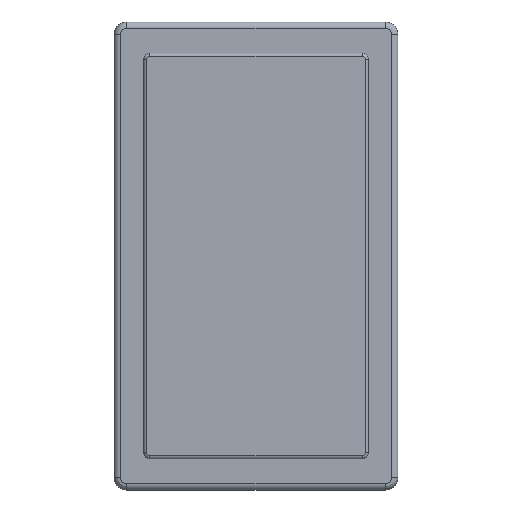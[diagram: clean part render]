
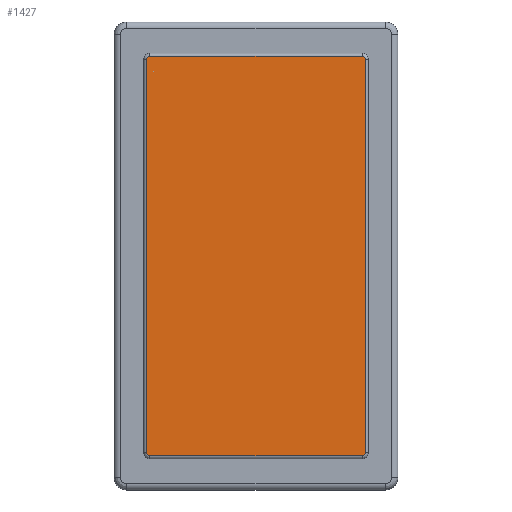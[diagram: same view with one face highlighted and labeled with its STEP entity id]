
A CAD part, front view. The second image highlights one B-rep face of the part: STEP entity #1427.
In plain terms, the highlighted planar face has unit normal (0, -1, 0).
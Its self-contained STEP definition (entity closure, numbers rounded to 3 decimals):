
#50=CIRCLE('',#1489,0.5);
#56=CIRCLE('',#1496,0.5);
#60=CIRCLE('',#1501,0.5);
#64=CIRCLE('',#1506,0.5);
#146=LINE('',#3041,#254);
#148=LINE('',#3061,#256);
#150=LINE('',#3081,#258);
#151=LINE('',#3097,#259);
#254=VECTOR('',#1673,34.);
#256=VECTOR('',#1685,63.);
#258=VECTOR('',#1697,34.);
#259=VECTOR('',#1706,63.);
#343=PLANE('',#1514);
#415=FACE_OUTER_BOUND('',#505,.T.);
#505=EDGE_LOOP('',(#1151,#1152,#1153,#1154,#1155,#1156,#1157,#1158));
#666=VERTEX_POINT('',#3029);
#667=VERTEX_POINT('',#3031);
#669=VERTEX_POINT('',#3037);
#671=VERTEX_POINT('',#3051);
#673=VERTEX_POINT('',#3057);
#675=VERTEX_POINT('',#3071);
#677=VERTEX_POINT('',#3077);
#679=VERTEX_POINT('',#3091);
#828=EDGE_CURVE('',#666,#667,#50,.T.);
#833=EDGE_CURVE('',#667,#669,#146,.T.);
#836=EDGE_CURVE('',#669,#671,#56,.T.);
#839=EDGE_CURVE('',#671,#673,#148,.T.);
#842=EDGE_CURVE('',#673,#675,#60,.T.);
#845=EDGE_CURVE('',#675,#677,#150,.T.);
#848=EDGE_CURVE('',#677,#679,#64,.T.);
#849=EDGE_CURVE('',#679,#666,#151,.T.);
#1151=ORIENTED_EDGE('',*,*,#828,.F.);
#1152=ORIENTED_EDGE('',*,*,#849,.F.);
#1153=ORIENTED_EDGE('',*,*,#848,.F.);
#1154=ORIENTED_EDGE('',*,*,#845,.F.);
#1155=ORIENTED_EDGE('',*,*,#842,.F.);
#1156=ORIENTED_EDGE('',*,*,#839,.F.);
#1157=ORIENTED_EDGE('',*,*,#836,.F.);
#1158=ORIENTED_EDGE('',*,*,#833,.F.);
#1427=ADVANCED_FACE('',(#415),#343,.T.);
#1489=AXIS2_PLACEMENT_3D('',#3032,#1662,#1663);
#1496=AXIS2_PLACEMENT_3D('',#3055,#1678,#1679);
#1501=AXIS2_PLACEMENT_3D('',#3075,#1690,#1691);
#1506=AXIS2_PLACEMENT_3D('',#3095,#1702,#1703);
#1514=AXIS2_PLACEMENT_3D('',#3117,#1727,#1728);
#1662=DIRECTION('center_axis',(0.,1.,0.));
#1663=DIRECTION('ref_axis',(-0.707,0.,0.707));
#1673=DIRECTION('',(1.,0.,0.));
#1678=DIRECTION('center_axis',(0.,1.,0.));
#1679=DIRECTION('ref_axis',(0.707,0.,0.707));
#1685=DIRECTION('',(0.,0.,-1.));
#1690=DIRECTION('center_axis',(0.,1.,0.));
#1691=DIRECTION('ref_axis',(0.707,0.,-0.707));
#1697=DIRECTION('',(-1.,0.,0.));
#1702=DIRECTION('center_axis',(0.,1.,0.));
#1703=DIRECTION('ref_axis',(-0.707,0.,-0.707));
#1706=DIRECTION('',(0.,0.,1.));
#1727=DIRECTION('center_axis',(0.,-1.,0.));
#1728=DIRECTION('ref_axis',(0.,0.,-1.));
#3029=CARTESIAN_POINT('',(-17.5,-5.,31.5));
#3031=CARTESIAN_POINT('',(-17.,-5.,32.));
#3032=CARTESIAN_POINT('Origin',(-17.,-5.,31.5));
#3037=CARTESIAN_POINT('',(17.,-5.,32.));
#3041=CARTESIAN_POINT('',(9.,-5.,32.));
#3051=CARTESIAN_POINT('',(17.5,-5.,31.5));
#3055=CARTESIAN_POINT('Origin',(17.,-5.,31.5));
#3057=CARTESIAN_POINT('',(17.5,-5.,-31.5));
#3061=CARTESIAN_POINT('',(17.5,-5.,-16.25));
#3071=CARTESIAN_POINT('',(17.,-5.,-32.));
#3075=CARTESIAN_POINT('Origin',(17.,-5.,-31.5));
#3077=CARTESIAN_POINT('',(-17.,-5.,-32.));
#3081=CARTESIAN_POINT('',(-9.,-5.,-32.));
#3091=CARTESIAN_POINT('',(-17.5,-5.,-31.5));
#3095=CARTESIAN_POINT('Origin',(-17.,-5.,-31.5));
#3097=CARTESIAN_POINT('',(-17.5,-5.,16.25));
#3117=CARTESIAN_POINT('Origin',(0.,-5.,0.));
